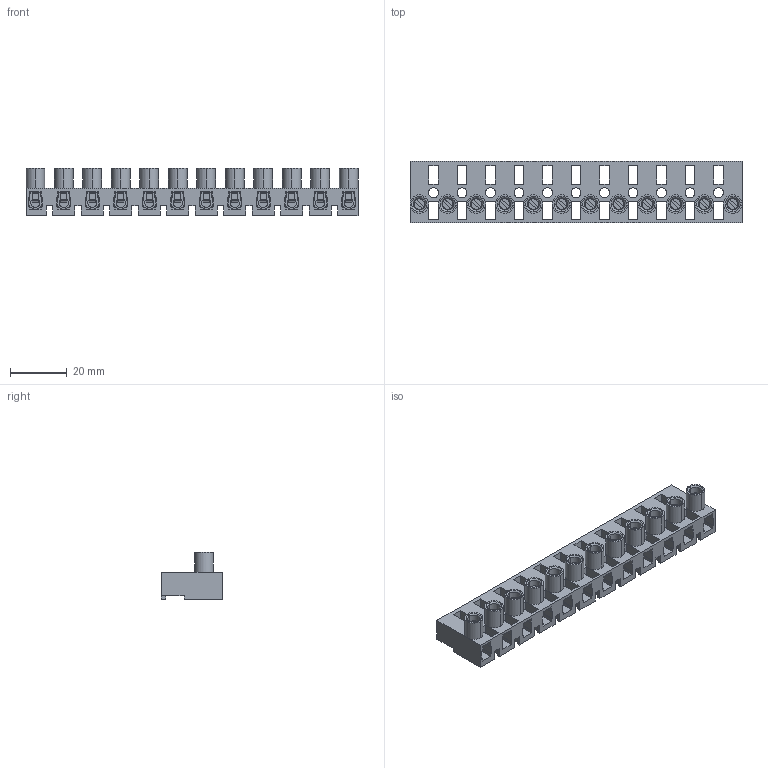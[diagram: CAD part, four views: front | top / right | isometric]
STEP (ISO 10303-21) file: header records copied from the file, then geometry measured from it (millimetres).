
FILE_DESCRIPTION(('CATIA V5 STEP Exchange'),'2;1');
FILE_NAME('C:\Users\mcr\Documents\weco\6_STEPfertig\Katalog_7\Steckverbinderklemmleiste_321-B\321-B-DS_12_42821006.stp','2016-09-23T08:53:34+00:00',('none'),('none'),'CATIA Version 5 Release 20 SP 5 (IN-10)','CATIA V5 STEP AP214','none');
FILE_SCHEMA(('AUTOMOTIVE_DESIGN { 1 0 10303 214 1 1 1 1 }'));
Products named in the file (1): 321-B-DS
Bounding box: 116.5 x 21.5 x 16.5 mm (x, y, z)
Volume: 15326 mm3; surface area: 18581.4 mm2
Topology: 1 solids, 1 shells, 1531 faces, 4436 edges, 2935 vertices
Faces by surface type: plane 1184, cylinder 227, torus 72, cone 48
Entity records: 59199 total; most frequent: CARTESIAN_POINT 9942, ORIENTED_EDGE 8872, DIRECTION 6525, EDGE_CURVE 4436, VECTOR 3467, LINE 3467, VERTEX_POINT 2935, AXIS2_PLACEMENT_3D 1938
